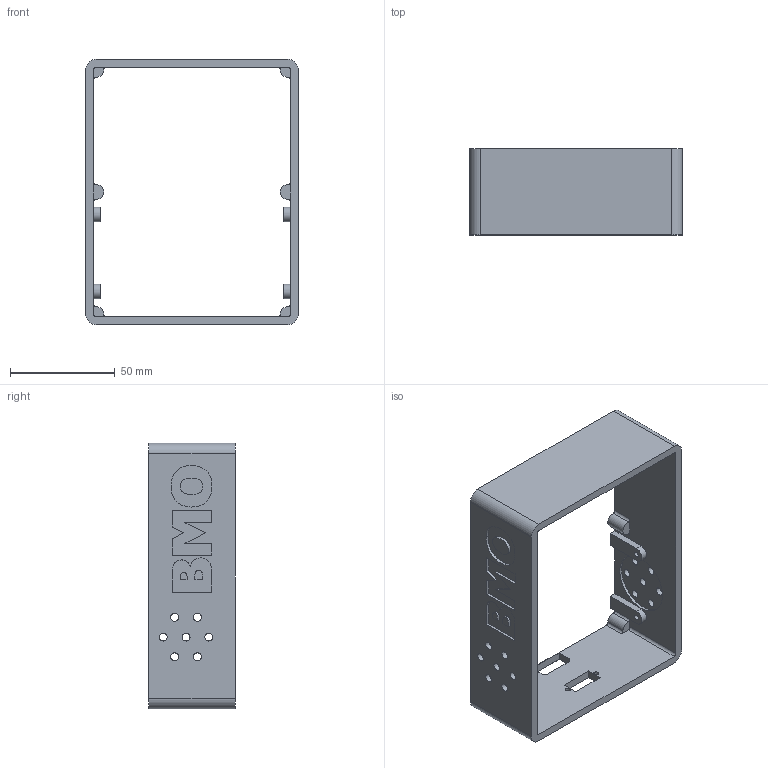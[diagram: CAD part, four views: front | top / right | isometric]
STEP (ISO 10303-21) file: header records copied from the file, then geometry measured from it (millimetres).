
FILE_DESCRIPTION (( 'STEP AP203' ), '1' );
FILE_NAME ('Shell.step', '2015-03-14T23:36:13', ( '' ), ( '' ), 'SwSTEP 2.0', 'SolidWorks 2013', '' );
FILE_SCHEMA (( 'CONFIG_CONTROL_DESIGN' ));
Length unit declared in the file: inch
Products named in the file (1): Shell
Bounding box: 101.6 x 41.27 x 127 mm (x, y, z)
Volume: 65792.5 mm3; surface area: 41945.7 mm2
Topology: 1 solids, 1 shells, 203 faces, 558 edges, 372 vertices
Faces by surface type: plane 95, cylinder 60, bspline 38, cone 10
Full cylindrical faces by diameter (mm): 2.261 x2, 2.54 x4, 2.946 x6, 3.81 x14, 8.763 x1, 13.284 x1, 28.956 x2
Entity records: 8303 total; most frequent: CARTESIAN_POINT 3412, ORIENTED_EDGE 996, DIRECTION 874, EDGE_CURVE 498, VERTEX_POINT 352, LINE 302, VECTOR 302, EDGE_LOOP 298
